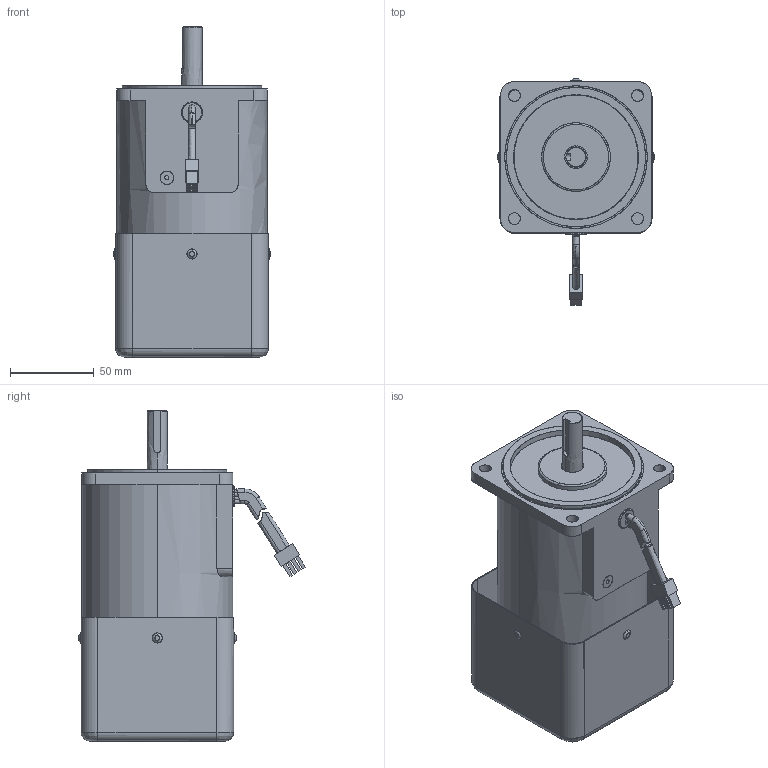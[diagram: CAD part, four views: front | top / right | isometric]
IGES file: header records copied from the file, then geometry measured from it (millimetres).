
Start section: SolidWorks IGES file using analytic representation for surfaces
Global section: file name: \\楷备家烹钦辑滚\data (D)\档搁 枚\权其捞瘤 档搁\7. SPEED INDUCTION\90\60W\(7-60) 9SDK∴-60F2WH.IGS; native system: SolidWorks 2007; preprocessor: SolidWorks 2007; author: user; date: 150706.165329; units: millimetre
Bounding box: 94 x 135.4 x 197 mm (x, y, z)
Surface area: 168800.2 mm2 (no closed solid volume)
Topology: 0 solids, 0 shells, 399 faces, 7070 edges, 7070 vertices
Faces by surface type: revolution 240, bspline 159
